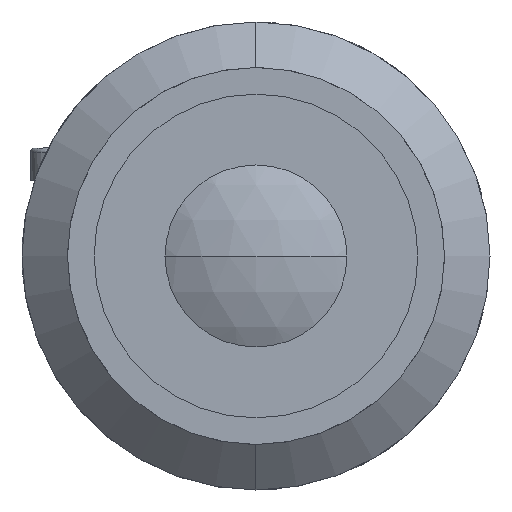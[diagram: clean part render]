
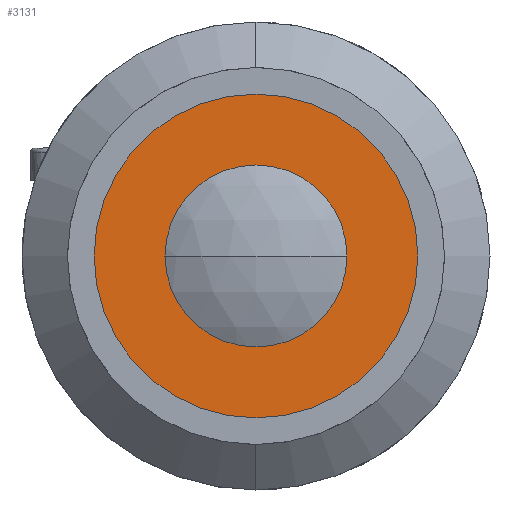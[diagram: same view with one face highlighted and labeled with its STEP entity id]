
A CAD part, left-side view. The second image highlights one B-rep face of the part: STEP entity #3131.
In plain terms, the highlighted planar face has unit normal (-1, 0, 0).
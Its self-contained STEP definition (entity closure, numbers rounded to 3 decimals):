
#95 = EDGE_CURVE ( 'NONE', #3052, #1571, #308, .T. ) ;
#166 = DIRECTION ( 'NONE',  ( 0., 0., 1. ) ) ;
#243 = CARTESIAN_POINT ( 'NONE',  ( 3.8, 0., -13.5 ) ) ;
#298 = VERTEX_POINT ( 'NONE', #626 ) ;
#308 = CIRCLE ( 'NONE', #1289, 13.5 ) ;
#353 = DIRECTION ( 'NONE',  ( 0., 0., -1. ) ) ;
#362 = CIRCLE ( 'NONE', #3301, 13.5 ) ;
#626 = CARTESIAN_POINT ( 'NONE',  ( 3.8, 0., 7. ) ) ;
#807 = CIRCLE ( 'NONE', #3158, 7. ) ;
#866 = VERTEX_POINT ( 'NONE', #1887 ) ;
#1215 = EDGE_LOOP ( 'NONE', ( #1921, #1926 ) ) ;
#1248 = FACE_BOUND ( 'NONE', #1215, .T. ) ;
#1266 = EDGE_CURVE ( 'NONE', #866, #298, #807, .T. ) ;
#1289 = AXIS2_PLACEMENT_3D ( 'NONE', #2250, #2231, #2213 ) ;
#1292 = CARTESIAN_POINT ( 'NONE',  ( 3.8, 0., 0. ) ) ;
#1476 = PLANE ( 'NONE',  #3103 ) ;
#1567 = DIRECTION ( 'NONE',  ( 0., 0., 1. ) ) ;
#1571 = VERTEX_POINT ( 'NONE', #243 ) ;
#1746 = AXIS2_PLACEMENT_3D ( 'NONE', #3516, #1880, #166 ) ;
#1757 = EDGE_CURVE ( 'NONE', #298, #866, #3172, .T. ) ;
#1762 = CARTESIAN_POINT ( 'NONE',  ( 3.8, 13.5, 0. ) ) ;
#1834 = EDGE_LOOP ( 'NONE', ( #1968, #2022 ) ) ;
#1880 = DIRECTION ( 'NONE',  ( -1., 0., 0. ) ) ;
#1887 = CARTESIAN_POINT ( 'NONE',  ( 3.8, 0., -7. ) ) ;
#1889 = CARTESIAN_POINT ( 'NONE',  ( 3.8, 0., 0. ) ) ;
#1921 = ORIENTED_EDGE ( 'NONE', *, *, #1757, .F. ) ;
#1926 = ORIENTED_EDGE ( 'NONE', *, *, #1266, .F. ) ;
#1968 = ORIENTED_EDGE ( 'NONE', *, *, #95, .T. ) ;
#1976 = DIRECTION ( 'NONE',  ( 0., 0., 1. ) ) ;
#2019 = CARTESIAN_POINT ( 'NONE',  ( 3.8, 0., 13.5 ) ) ;
#2022 = ORIENTED_EDGE ( 'NONE', *, *, #2977, .T. ) ;
#2048 = DIRECTION ( 'NONE',  ( 1., 0., 0. ) ) ;
#2213 = DIRECTION ( 'NONE',  ( 0., 0., 1. ) ) ;
#2231 = DIRECTION ( 'NONE',  ( -1., 0., 0. ) ) ;
#2250 = CARTESIAN_POINT ( 'NONE',  ( 3.8, 0., 0. ) ) ;
#2678 = FACE_OUTER_BOUND ( 'NONE', #1834, .T. ) ;
#2977 = EDGE_CURVE ( 'NONE', #1571, #3052, #362, .T. ) ;
#3052 = VERTEX_POINT ( 'NONE', #2019 ) ;
#3103 = AXIS2_PLACEMENT_3D ( 'NONE', #1762, #2048, #353 ) ;
#3131 = ADVANCED_FACE ( 'NONE', ( #1248, #2678 ), #1476, .F. ) ;
#3158 = AXIS2_PLACEMENT_3D ( 'NONE', #1292, #3265, #1567 ) ;
#3172 = CIRCLE ( 'NONE', #1746, 7. ) ;
#3265 = DIRECTION ( 'NONE',  ( -1., 0., 0. ) ) ;
#3301 = AXIS2_PLACEMENT_3D ( 'NONE', #1889, #3589, #1976 ) ;
#3516 = CARTESIAN_POINT ( 'NONE',  ( 3.8, 0., 0. ) ) ;
#3589 = DIRECTION ( 'NONE',  ( -1., 0., 0. ) ) ;
